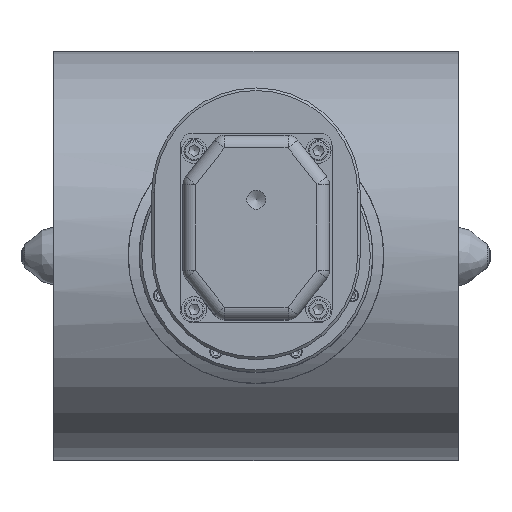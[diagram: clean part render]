
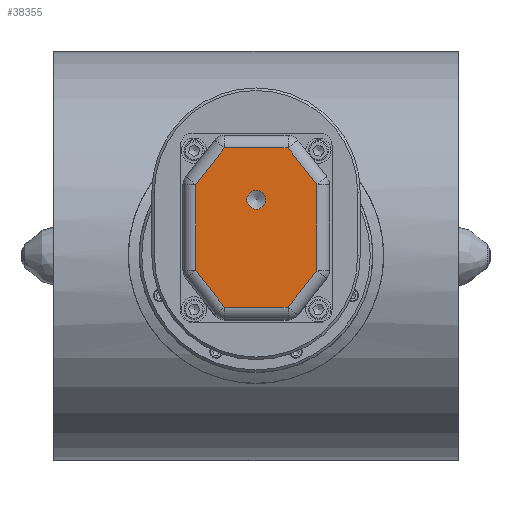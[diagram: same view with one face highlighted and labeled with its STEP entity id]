
A CAD part, top view. The second image highlights one B-rep face of the part: STEP entity #38355.
In plain terms, the highlighted planar face has unit normal (0, 0, 1).
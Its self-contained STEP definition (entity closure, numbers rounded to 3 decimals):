
#1141=FACE_BOUND('',#5839,.T.);
#2442=PLANE('',#41581);
#3678=FACE_OUTER_BOUND('',#5838,.T.);
#5838=EDGE_LOOP('',(#27882,#27883,#27884,#27885,#27886,#27887,#27888,#27889));
#5839=EDGE_LOOP('',(#27890,#27891));
#8618=CIRCLE('',#41515,7.475);
#8619=CIRCLE('',#41516,7.475);
#10778=LINE('',#62020,#12965);
#10780=LINE('',#62028,#12967);
#10782=LINE('',#62038,#12969);
#10784=LINE('',#62048,#12971);
#10786=LINE('',#62058,#12973);
#10788=LINE('',#62068,#12975);
#10790=LINE('',#62078,#12977);
#10792=LINE('',#62087,#12979);
#12965=VECTOR('',#48517,10.);
#12967=VECTOR('',#48525,10.);
#12969=VECTOR('',#48537,10.);
#12971=VECTOR('',#48549,10.);
#12973=VECTOR('',#48561,10.);
#12975=VECTOR('',#48573,10.);
#12977=VECTOR('',#48585,10.);
#12979=VECTOR('',#48597,10.);
#15862=VERTEX_POINT('',#61984);
#15863=VERTEX_POINT('',#61985);
#15875=VERTEX_POINT('',#62017);
#15876=VERTEX_POINT('',#62019);
#15879=VERTEX_POINT('',#62027);
#15882=VERTEX_POINT('',#62037);
#15885=VERTEX_POINT('',#62047);
#15888=VERTEX_POINT('',#62057);
#15891=VERTEX_POINT('',#62067);
#15894=VERTEX_POINT('',#62077);
#20278=EDGE_CURVE('',#15862,#15863,#8618,.T.);
#20279=EDGE_CURVE('',#15863,#15862,#8619,.T.);
#20294=EDGE_CURVE('',#15875,#15876,#10778,.T.);
#20298=EDGE_CURVE('',#15876,#15879,#10780,.T.);
#20303=EDGE_CURVE('',#15879,#15882,#10782,.T.);
#20308=EDGE_CURVE('',#15882,#15885,#10784,.T.);
#20313=EDGE_CURVE('',#15885,#15888,#10786,.T.);
#20318=EDGE_CURVE('',#15888,#15891,#10788,.T.);
#20323=EDGE_CURVE('',#15891,#15894,#10790,.T.);
#20328=EDGE_CURVE('',#15894,#15875,#10792,.T.);
#27882=ORIENTED_EDGE('',*,*,#20294,.F.);
#27883=ORIENTED_EDGE('',*,*,#20328,.F.);
#27884=ORIENTED_EDGE('',*,*,#20323,.F.);
#27885=ORIENTED_EDGE('',*,*,#20318,.F.);
#27886=ORIENTED_EDGE('',*,*,#20313,.F.);
#27887=ORIENTED_EDGE('',*,*,#20308,.F.);
#27888=ORIENTED_EDGE('',*,*,#20303,.F.);
#27889=ORIENTED_EDGE('',*,*,#20298,.F.);
#27890=ORIENTED_EDGE('',*,*,#20278,.T.);
#27891=ORIENTED_EDGE('',*,*,#20279,.T.);
#38355=ADVANCED_FACE('',(#3678,#1141),#2442,.T.);
#41515=AXIS2_PLACEMENT_3D('',#61986,#48480,#48481);
#41516=AXIS2_PLACEMENT_3D('',#61987,#48482,#48483);
#41581=AXIS2_PLACEMENT_3D('',#62129,#48646,#48647);
#48480=DIRECTION('center_axis',(0.,0.,
-1.));
#48481=DIRECTION('ref_axis',(-1.,0.,0.));
#48482=DIRECTION('center_axis',(0.,0.,
-1.));
#48483=DIRECTION('ref_axis',(-1.,0.,0.));
#48517=DIRECTION('',(0.,-1.,0.));
#48525=DIRECTION('',(-0.619,-0.785,0.));
#48537=DIRECTION('',(-1.,0.,0.));
#48549=DIRECTION('',(-0.619,0.785,0.));
#48561=DIRECTION('',(0.,1.,0.));
#48573=DIRECTION('',(0.619,0.785,0.));
#48585=DIRECTION('',(1.,0.,0.));
#48597=DIRECTION('',(0.619,-0.785,0.));
#48646=DIRECTION('center_axis',(0.,0.,
1.));
#48647=DIRECTION('ref_axis',(-1.,0.,0.));
#61984=CARTESIAN_POINT('',(-7.275,43.792,423.07));
#61985=CARTESIAN_POINT('',(7.675,43.792,423.07));
#61986=CARTESIAN_POINT('Origin',(0.2,43.792,423.07));
#61987=CARTESIAN_POINT('Origin',(0.2,43.792,423.07));
#62017=CARTESIAN_POINT('',(48.2,55.823,423.07));
#62019=CARTESIAN_POINT('',(48.2,-12.239,423.07));
#62020=CARTESIAN_POINT('',(48.2,40.542,423.07));
#62027=CARTESIAN_POINT('',(25.351,-41.208,423.07));
#62028=CARTESIAN_POINT('',(48.343,-12.057,423.07));
#62037=CARTESIAN_POINT('',(-24.951,-41.208,423.07));
#62038=CARTESIAN_POINT('',(15.2,-41.208,423.07));
#62047=CARTESIAN_POINT('',(-47.8,-12.239,423.07));
#62048=CARTESIAN_POINT('',(-33.943,-29.807,423.07));
#62057=CARTESIAN_POINT('',(-47.8,55.823,423.07));
#62058=CARTESIAN_POINT('',(-47.8,3.042,423.07));
#62067=CARTESIAN_POINT('',(-24.951,84.792,423.07));
#62068=CARTESIAN_POINT('',(-47.943,55.641,423.07));
#62077=CARTESIAN_POINT('',(25.351,84.792,423.07));
#62078=CARTESIAN_POINT('',(-14.8,84.792,423.07));
#62087=CARTESIAN_POINT('',(34.343,73.391,423.07));
#62129=CARTESIAN_POINT('Origin',(0.2,21.792,423.07));
